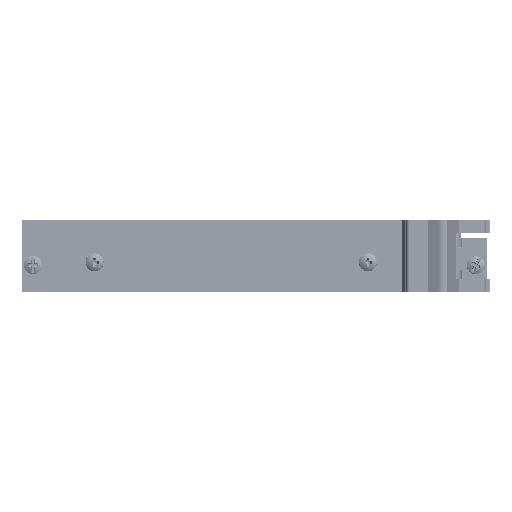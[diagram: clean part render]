
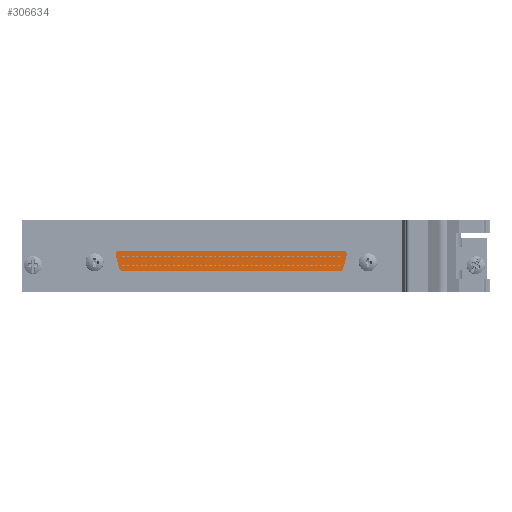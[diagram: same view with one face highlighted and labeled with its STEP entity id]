
A CAD part, left-side view. The second image highlights one B-rep face of the part: STEP entity #306634.
In plain terms, the highlighted planar face has unit normal (-1, 0, 0).
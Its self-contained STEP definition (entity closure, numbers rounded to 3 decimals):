
#4345 = DIRECTION ( 'NONE',  ( -1., 0., 0. ) ) ;
#7515 = LINE ( 'NONE', #228534, #413936 ) ;
#7829 = EDGE_CURVE ( 'NONE', #141730, #92061, #467900, .T. ) ;
#28443 = DIRECTION ( 'NONE',  ( 0., 0., 1. ) ) ;
#35290 = DIRECTION ( 'NONE',  ( -1., 0., 0. ) ) ;
#47483 = AXIS2_PLACEMENT_3D ( 'NONE', #73147, #35290, #220547 ) ;
#57276 = CIRCLE ( 'NONE', #429306, 1. ) ;
#64261 = EDGE_CURVE ( 'NONE', #92061, #326956, #399751, .T. ) ;
#64703 = DIRECTION ( 'NONE',  ( -1., 0., 0. ) ) ;
#73147 = CARTESIAN_POINT ( 'NONE',  ( 5.966, 7.688, -30.036 ) ) ;
#92061 = VERTEX_POINT ( 'NONE', #196988 ) ;
#93546 = CARTESIAN_POINT ( 'NONE',  ( 5.966, 7.429, -31.002 ) ) ;
#97221 = CARTESIAN_POINT ( 'NONE',  ( 5.966, 8.688, 32.024 ) ) ;
#118267 = DIRECTION ( 'NONE',  ( 0., 0., 1. ) ) ;
#121768 = VECTOR ( 'NONE', #307501, 1000. ) ;
#125337 = ORIENTED_EDGE ( 'NONE', *, *, #64261, .T. ) ;
#130243 = DIRECTION ( 'NONE',  ( 0., 0.966, 0.259 ) ) ;
#139587 = LINE ( 'NONE', #455960, #193680 ) ;
#141730 = VERTEX_POINT ( 'NONE', #229965 ) ;
#144140 = VERTEX_POINT ( 'NONE', #203493 ) ;
#159965 = EDGE_CURVE ( 'NONE', #326956, #445069, #139587, .T. ) ;
#161671 = ORIENTED_EDGE ( 'NONE', *, *, #285767, .T. ) ;
#181739 = EDGE_CURVE ( 'NONE', #445069, #144140, #57276, .T. ) ;
#182811 = CARTESIAN_POINT ( 'NONE',  ( 5.966, 3.729, 31.998 ) ) ;
#184909 = CARTESIAN_POINT ( 'NONE',  ( 5.966, 7.688, 32.024 ) ) ;
#193680 = VECTOR ( 'NONE', #130243, 1000. ) ;
#196781 = CIRCLE ( 'NONE', #371096, 1. ) ;
#196988 = CARTESIAN_POINT ( 'NONE',  ( 5.966, 2.988, 31.032 ) ) ;
#203288 = ORIENTED_EDGE ( 'NONE', *, *, #7829, .T. ) ;
#203493 = CARTESIAN_POINT ( 'NONE',  ( 5.966, 7.688, 33.024 ) ) ;
#207541 = CARTESIAN_POINT ( 'NONE',  ( 5.966, 3.988, -29.045 ) ) ;
#209975 = AXIS2_PLACEMENT_3D ( 'NONE', #184909, #4345, #118267 ) ;
#220547 = DIRECTION ( 'NONE',  ( 0., 0., -1. ) ) ;
#224595 = CARTESIAN_POINT ( 'NONE',  ( 5.966, 8.688, -30.036 ) ) ;
#228534 = CARTESIAN_POINT ( 'NONE',  ( 5.966, 8.688, -30.036 ) ) ;
#229584 = VECTOR ( 'NONE', #470167, 1000. ) ;
#229965 = CARTESIAN_POINT ( 'NONE',  ( 5.966, 2.988, -29.045 ) ) ;
#231367 = CARTESIAN_POINT ( 'NONE',  ( 5.966, 7.688, 32.024 ) ) ;
#231680 = LINE ( 'NONE', #93546, #121768 ) ;
#232621 = AXIS2_PLACEMENT_3D ( 'NONE', #461039, #356233, #28443 ) ;
#233939 = VERTEX_POINT ( 'NONE', #97221 ) ;
#234437 = CARTESIAN_POINT ( 'NONE',  ( 5.966, 7.429, 32.99 ) ) ;
#240108 = CARTESIAN_POINT ( 'NONE',  ( 5.966, 7.688, 32.024 ) ) ;
#244013 = EDGE_CURVE ( 'NONE', #233939, #460096, #7515, .T. ) ;
#255965 = EDGE_CURVE ( 'NONE', #144140, #233939, #196781, .T. ) ;
#279631 = CIRCLE ( 'NONE', #454428, 1. ) ;
#281367 = ORIENTED_EDGE ( 'NONE', *, *, #463498, .T. ) ;
#285767 = EDGE_CURVE ( 'NONE', #341703, #141730, #279631, .T. ) ;
#305389 = CIRCLE ( 'NONE', #47483, 1. ) ;
#306634 = ADVANCED_FACE ( 'NONE', ( #389517 ), #353805, .T. ) ;
#307501 = DIRECTION ( 'NONE',  ( 0., -0.966, 0.259 ) ) ;
#313633 = DIRECTION ( 'NONE',  ( -1., 0., 0. ) ) ;
#325131 = CARTESIAN_POINT ( 'NONE',  ( 5.966, 2.988, 31.032 ) ) ;
#326956 = VERTEX_POINT ( 'NONE', #182811 ) ;
#336921 = CARTESIAN_POINT ( 'NONE',  ( 5.966, 3.729, -30.011 ) ) ;
#337723 = DIRECTION ( 'NONE',  ( 0., 0., -1. ) ) ;
#341703 = VERTEX_POINT ( 'NONE', #336921 ) ;
#352317 = DIRECTION ( 'NONE',  ( 0., 0., -1. ) ) ;
#353437 = CARTESIAN_POINT ( 'NONE',  ( 5.966, 7.429, -31.002 ) ) ;
#353805 = PLANE ( 'NONE',  #209975 ) ;
#355989 = VERTEX_POINT ( 'NONE', #353437 ) ;
#356233 = DIRECTION ( 'NONE',  ( -1., 0., 0. ) ) ;
#365013 = EDGE_LOOP ( 'NONE', ( #368841, #413481, #457999, #417487, #281367, #161671, #203288, #125337, #432091 ) ) ;
#368841 = ORIENTED_EDGE ( 'NONE', *, *, #181739, .T. ) ;
#371096 = AXIS2_PLACEMENT_3D ( 'NONE', #240108, #313633, #418353 ) ;
#373850 = DIRECTION ( 'NONE',  ( 0., 0., 1. ) ) ;
#389517 = FACE_OUTER_BOUND ( 'NONE', #365013, .T. ) ;
#399751 = CIRCLE ( 'NONE', #232621, 1. ) ;
#413481 = ORIENTED_EDGE ( 'NONE', *, *, #255965, .T. ) ;
#413936 = VECTOR ( 'NONE', #337723, 1000. ) ;
#417487 = ORIENTED_EDGE ( 'NONE', *, *, #433523, .T. ) ;
#418353 = DIRECTION ( 'NONE',  ( 0., 0., 1. ) ) ;
#429306 = AXIS2_PLACEMENT_3D ( 'NONE', #231367, #442927, #373850 ) ;
#432091 = ORIENTED_EDGE ( 'NONE', *, *, #159965, .T. ) ;
#433523 = EDGE_CURVE ( 'NONE', #460096, #355989, #305389, .T. ) ;
#442927 = DIRECTION ( 'NONE',  ( -1., 0., 0. ) ) ;
#445069 = VERTEX_POINT ( 'NONE', #234437 ) ;
#454428 = AXIS2_PLACEMENT_3D ( 'NONE', #207541, #64703, #352317 ) ;
#455960 = CARTESIAN_POINT ( 'NONE',  ( 5.966, 7.429, 32.99 ) ) ;
#457999 = ORIENTED_EDGE ( 'NONE', *, *, #244013, .T. ) ;
#460096 = VERTEX_POINT ( 'NONE', #224595 ) ;
#461039 = CARTESIAN_POINT ( 'NONE',  ( 5.966, 3.988, 31.032 ) ) ;
#463498 = EDGE_CURVE ( 'NONE', #355989, #341703, #231680, .T. ) ;
#467900 = LINE ( 'NONE', #325131, #229584 ) ;
#470167 = DIRECTION ( 'NONE',  ( 0., 0., 1. ) ) ;
